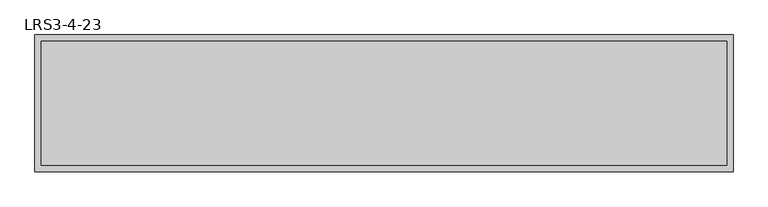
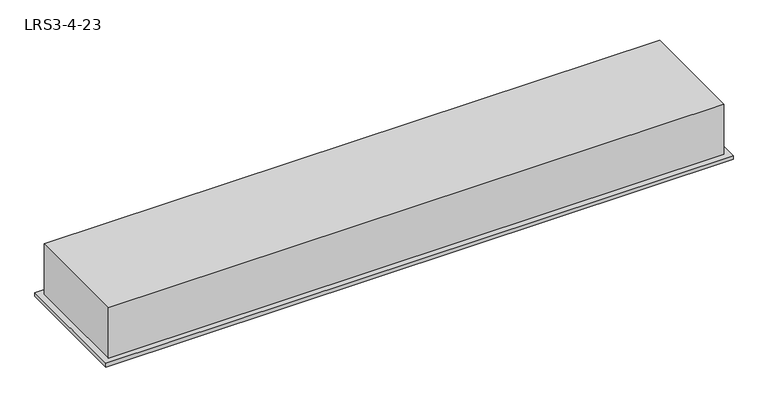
"""IFC4 building model written with IfcOpenShell, lengths in millimetres: light fixture geometry, 20401_RS3_ベースライト形_埋込天井灯 : LRS3-4-23."""

from ifc_helpers import new_model, si_unit, point, frame, frame_2d, origin, place, context, project, spatial, polyline, circle_curve, trimmed, segment, composite_curve, outline, extrude, faceted_brep, source, transform, mapped, element, save


def lrs3_4_23_6bcaa549(model_context):
    return source(origin(), model_context, "Body", "SolidModel", [
        extrude(outline(composite_curve([segment(polyline([(-37.6444836, 18.0), (37.5986431, 18.0)]), True, "CONTINUOUS"), segment(trimmed(circle_curve(frame_2d((-0.0229203, 51.1288677)), 50.1288729), [point((37.5986431, 18.0))], [point((-37.6444836, 18.0))], False, "CARTESIAN"), True, "CONTINUOUS")], self_intersect=False)), frame((-635.0, 0.0, 0.0), z_axis=(1.0, 0.0, 0.0), x_axis=(0.0, 1.0, 0.0)), (0.0, 0.0, 1.0), 1270.0),
        faceted_brep([(638.0, -115.5, -8.0), (638.0, 115.5, -8.0), (638.0, 115.5, 102.0), (638.0, -115.5, 102.0), (-638.0, -115.5, -8.0), (-638.0, -115.5, 102.0), (-638.0, 115.5, 102.0), (-638.0, 115.5, -8.0), (635.0, 112.5, -8.0), (-635.0, 112.5, -8.0), (-635.0, -112.5, -8.0), (635.0, -112.5, -8.0), (635.0, -37.5, 18.0), (635.0, 37.5, 18.0), (-635.0, 37.5, 18.0), (-635.0, -37.5, 18.0)], [[[0, 1, 2, 3]], [[4, 5, 6, 7]], [[3, 5, 4, 0]], [[2, 6, 5, 3]], [[1, 7, 6, 2]], [[0, 4, 7, 1], [8, 9, 10, 11]], [[8, 11, 12, 13]], [[10, 9, 14, 15]], [[11, 10, 15, 12]], [[12, 15, 14, 13]], [[13, 14, 9, 8]]]),
        faceted_brep([(650.0, 127.5, -8.0), (-650.0, 127.5, -8.0), (-650.0, -127.5, -8.0), (650.0, -127.5, -8.0), (635.0, 112.5, -8.0), (635.0, -112.5, -8.0), (-635.0, -112.5, -8.0), (-635.0, 112.5, -8.0), (650.0, 127.5, -16.0), (650.0, -127.5, -16.0), (-650.0, -127.5, -16.0), (-650.0, 127.5, -16.0), (635.0, 112.5, -16.0), (-635.0, 112.5, -16.0), (-635.0, -112.5, -16.0), (635.0, -112.5, -16.0), (-635.0, 112.5, -12.0), (635.0, 112.5, -12.0), (-635.0, -112.5, -12.0), (635.0, -112.5, -12.0)], [[[0, 1, 2, 3], [4, 5, 6, 7]], [[8, 9, 10, 11], [12, 13, 14, 15]], [[3, 9, 8, 0]], [[2, 10, 9, 3]], [[1, 11, 10, 2]], [[0, 8, 11, 1]], [[7, 16, 13, 12, 17, 4]], [[6, 18, 14, 13, 16, 7]], [[5, 19, 15, 14, 18, 6]], [[4, 17, 12, 15, 19, 5]]]),
    ])


if __name__ == "__main__":
    model = new_model("IFC4")
    model_context = context("Model", 3, world=origin())
    ifc_project = project(units=[si_unit("LENGTHUNIT", "METRE", prefix="MILLI")], contexts=[model_context])
    site = spatial("IfcSite", under=ifc_project)
    building = spatial("IfcBuilding", under=site)
    placement = place(None, origin())
    lrs3_4_23_shape = lrs3_4_23_6bcaa549(model_context)
    element("IfcLightFixture", 1, ObjectType="20401_RS3_ベースライト形_埋込天井灯 : LRS3-4-23", at=placement, inside=building, context=model_context, shape_type="MappedRepresentation", body=[
        mapped(lrs3_4_23_shape, transform((0.0, 0.0, 0.0), x_axis=(1.0, 0.0, 0.0), y_axis=(0.0, 1.0, 0.0), z_axis=(0.0, 0.0, 1.0))),
    ])
    save(model, "model.ifc")
